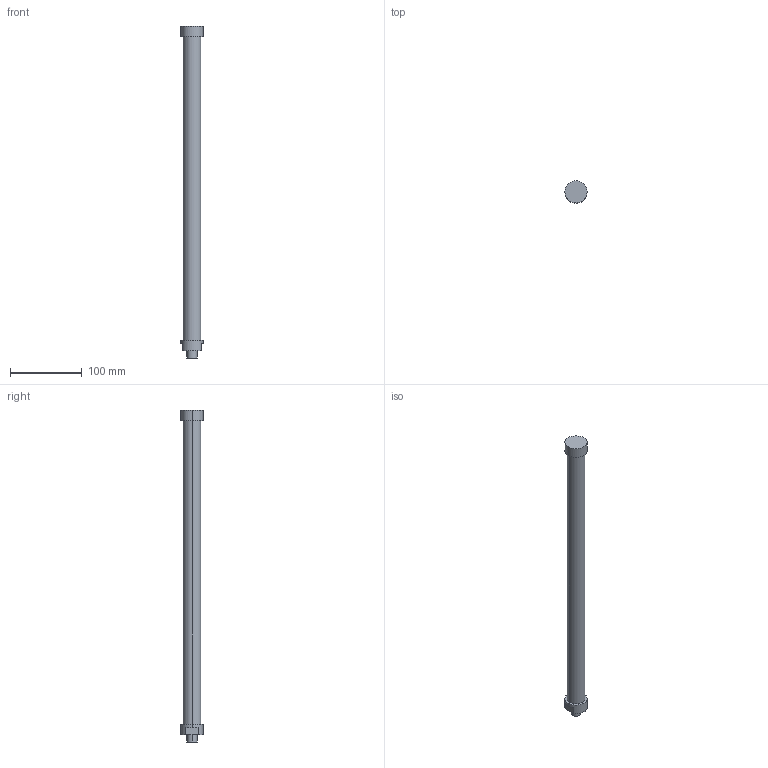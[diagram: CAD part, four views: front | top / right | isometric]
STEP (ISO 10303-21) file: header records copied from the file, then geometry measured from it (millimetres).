
FILE_DESCRIPTION(('STEP AP214'),'1');
FILE_NAME('C:/Users/Autocad/Desktop/L464-C240S1-FN.stp','2014-02-10T10:53:52',(' '),(' '),'Spatial InterOp 3D',' ',' ');
FILE_SCHEMA(('automotive_design'));
Length unit declared in the file: metre
Products named in the file (2): 1; 2
Bounding box: 31 x 31 x 464 mm (x, y, z)
Volume: 231344.6 mm3; surface area: 39267.8 mm2
Topology: 1 solids, 4 shells, 23 faces, 54 edges, 40 vertices
Faces by surface type: cylinder 12, plane 11
Entity records: 916 total; most frequent: DIRECTION 136, CARTESIAN_POINT 119, ORIENTED_EDGE 96, AXIS2_PLACEMENT_3D 57, EDGE_CURVE 54, VERTEX_POINT 40, CIRCLE 32, EDGE_LOOP 28
